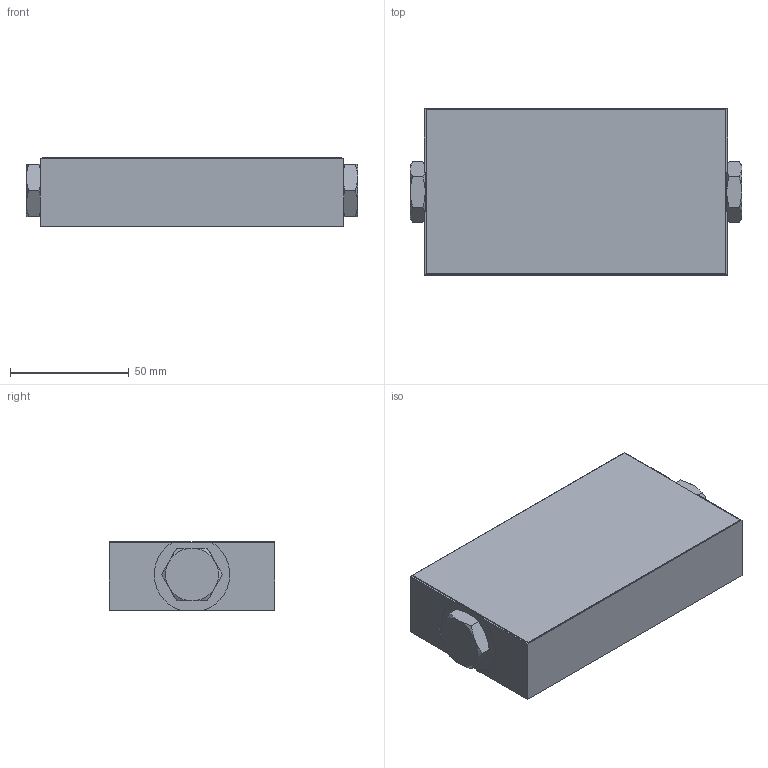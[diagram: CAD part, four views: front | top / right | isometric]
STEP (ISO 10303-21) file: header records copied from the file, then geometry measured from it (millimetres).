
FILE_DESCRIPTION((''),'2;1');
FILE_NAME('562514-EN-H_PRT','2019-12-31T21:40:14',('qusrh3'),(''),'CREO PARAMETRIC BY PTC INC, 2019030','CREO PARAMETRIC BY PTC INC, 2019030','');
FILE_SCHEMA(('CONFIG_CONTROL_DESIGN'));
Length unit declared in the file: inch
Products named in the file (1): 562514-EN-H_PRT
Bounding box: 139.41 x 69.85 x 28.96 mm (x, y, z)
Surface area: 39851.8 mm2 (no closed solid volume)
Topology: 0 solids, 4 shells, 57 faces, 132 edges, 80 vertices
Faces by surface type: plane 29, cone 24, cylinder 4
Entity records: 1811 total; most frequent: CARTESIAN_POINT 569, ORIENTED_EDGE 248, DIRECTION 230, EDGE_CURVE 132, AXIS2_PLACEMENT_3D 89, VERTEX_POINT 80, EDGE_LOOP 57, FACE_OUTER_BOUND 57
